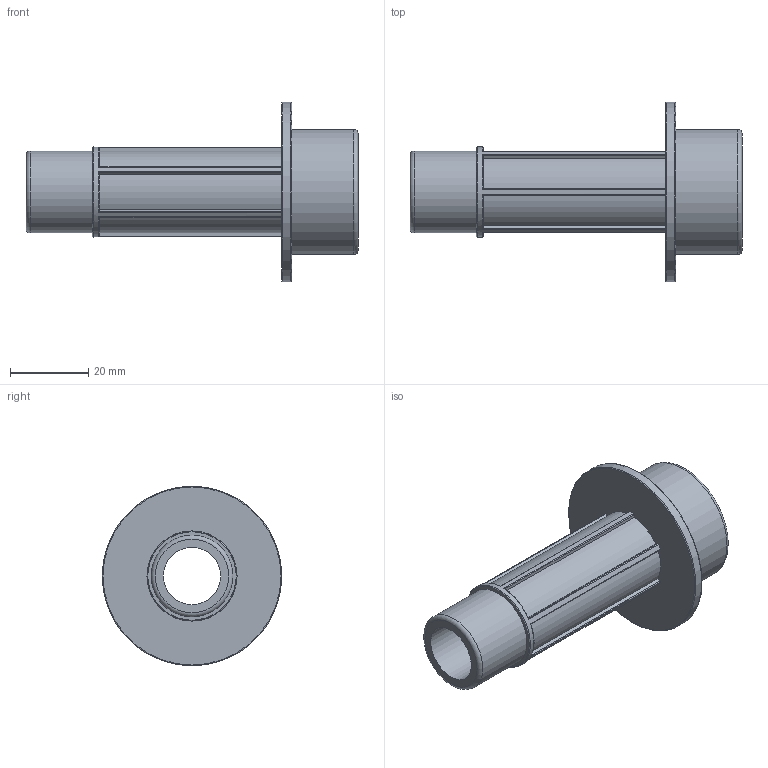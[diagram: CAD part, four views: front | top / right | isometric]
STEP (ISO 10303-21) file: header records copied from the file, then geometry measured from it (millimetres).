
FILE_DESCRIPTION(/* description */ ('PLASSON THREADED MALE ADAPTOR 32-1/2"'),/* implementation_level */ '2;1');
FILE_NAME(/* name */ 'C:\Dropbox\KIMPROJECTS-Inventor\99-16-3568-Processing\Silver+MF ISRAEL\078901\078901032005.ipt.stp',/* time_stamp */ '2018-04-09T13:01:53+03:00',/* author */ ('KIM'),/* organization */ (''),/* preprocessor_version */ 'ST-DEVELOPER v15.6',/* originating_system */ 'Autodesk Inventor 2015',/* authorisation */ '');
FILE_SCHEMA (('AUTOMOTIVE_DESIGN { 1 0 10303 214 3 1 1 }'));
Length unit declared in the file: millimetre
Products named in the file (1): 078901032005
Bounding box: 85 x 46 x 46 mm (x, y, z)
Volume: 26687.4 mm3; surface area: 13856.3 mm2
Topology: 1 solids, 1 shells, 57 faces, 151 edges, 99 vertices
Faces by surface type: cylinder 23, plane 23, torus 11
Full cylindrical faces by diameter (mm): 14.669 x1, 20.955 x1, 23.05 x1, 32 x1, 46 x1
Entity records: 1894 total; most frequent: CARTESIAN_POINT 488, DIRECTION 288, ORIENTED_EDGE 280, EDGE_CURVE 140, AXIS2_PLACEMENT_3D 114, VERTEX_POINT 98, EDGE_LOOP 72, LINE 60
